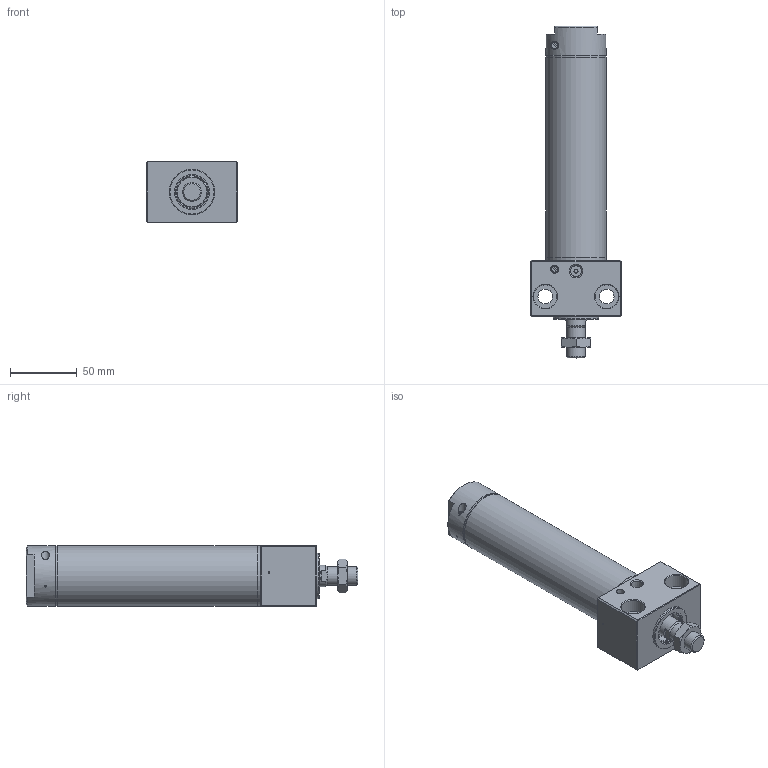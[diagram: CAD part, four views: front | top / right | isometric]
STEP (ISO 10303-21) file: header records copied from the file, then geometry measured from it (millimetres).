
FILE_DESCRIPTION((''),'2;1');
FILE_NAME('I:\3D電子目錄\氣缸\DBS\DBS\DBS40x100-C.stp','2007-10-08T08:48:39',('Administrator'),(''),'Autodesk Inventor 2008','Autodesk Inventor 2008','');
FILE_SCHEMA(('AUTOMOTIVE_DESIGN { 1 0 10303 214 1 1 1 1 }'));
Length unit declared in the file: millimetre
Products named in the file (1): DBS40x100-C
Bounding box: 68 x 248.6 x 46 mm (x, y, z)
Volume: 229105.9 mm3; surface area: 83395.9 mm2
Topology: 7 solids, 7 shells, 207 faces, 421 edges, 258 vertices
Faces by surface type: plane 92, cone 50, cylinder 46, bspline 16, torus 3
Full cylindrical faces by diameter (mm): 1.2 x1, 1.9 x2, 3 x2, 3.3 x1, 4.6 x2, 5 x2, 6 x2, 10.5 x1, 12 x1, 13 x1, 14 x2, 16 x1, 16.5 x1, 18 x1, 21 x2, 24 x3, 26 x2, 27.5 x1, 28 x2, 34 x1, 38 x2, 38.5 x2, 40 x1, 42.2 x6, 45 x4
Entity records: 5327 total; most frequent: CARTESIAN_POINT 1420, DIRECTION 818, ORIENTED_EDGE 630, AXIS2_PLACEMENT_3D 361, EDGE_LOOP 350, EDGE_CURVE 315, VERTEX_POINT 243, FACE_OUTER_BOUND 207
